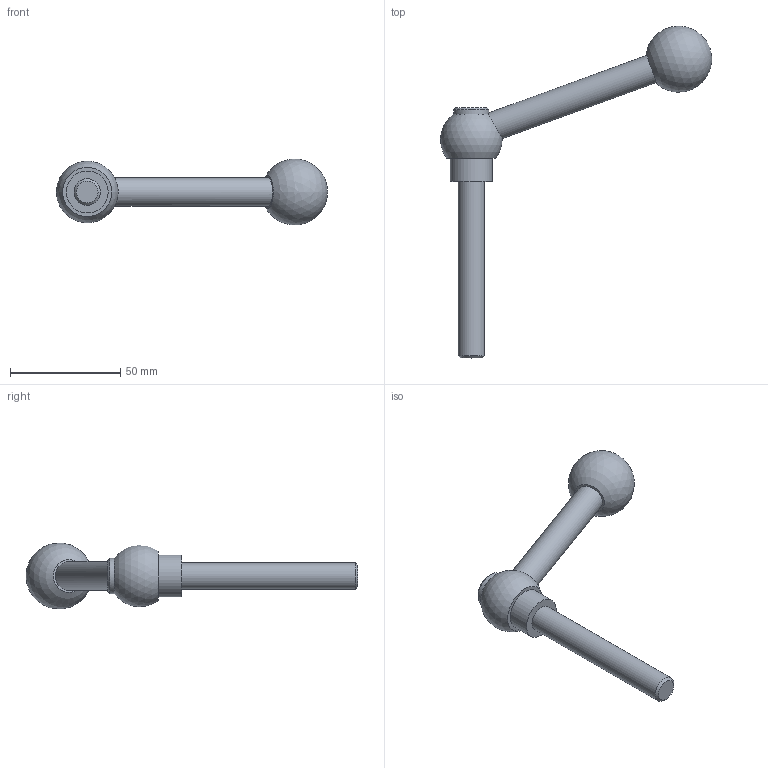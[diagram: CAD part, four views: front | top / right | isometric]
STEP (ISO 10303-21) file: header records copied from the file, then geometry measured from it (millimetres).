
FILE_DESCRIPTION( ( 'STEP AP203' ), '1' );
FILE_NAME( 'C:/Temp/Ganter_Step_05_03_2020/data/2_1/gn_6337_3/gn_6337_3_ms/gn_6337_3_ms_n/Adjustable clamping lever with bolt GN 6337.3-28-M12-80-N.stp', '2020-03-05T11:41:20', ( 'License CC BY-ND 4.0' ), ( 'CADENAS' ), ' ', 'PARTsolutions', ' ' );
FILE_SCHEMA( ( 'CONFIG_CONTROL_DESIGN' ) );
Length unit declared in the file: millimetre
Products named in the file (1): _Adjustable clamping lever with bolt GN 6337.3-28-M12-80-N
Bounding box: 122.95 x 150.49 x 29.7 mm (x, y, z)
Volume: 46543.9 mm3; surface area: 11711.7 mm2
Topology: 1 solids, 1 shells, 13 faces, 25 edges, 16 vertices
Faces by surface type: plane 5, cylinder 4, cone 2, sphere 2
Full cylindrical faces by diameter (mm): 12 x1, 13 x1, 15.969 x1, 19 x1
Entity records: 386 total; most frequent: CARTESIAN_POINT 124, DIRECTION 50, ORIENTED_EDGE 26, AXIS2_PLACEMENT_3D 25, EDGE_LOOP 23, FACE_OUTER_BOUND 18, ADVANCED_FACE 13, VERTEX_POINT 13
